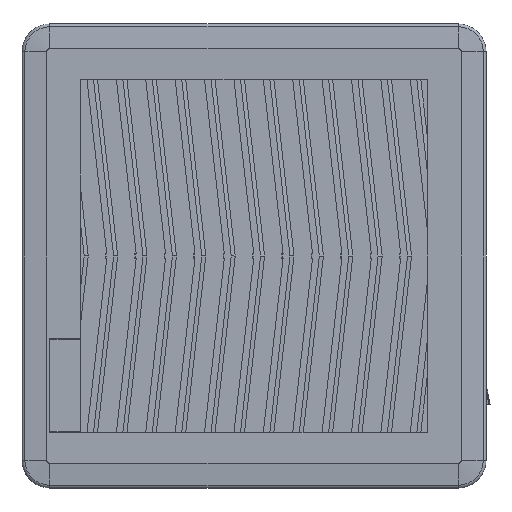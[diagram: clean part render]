
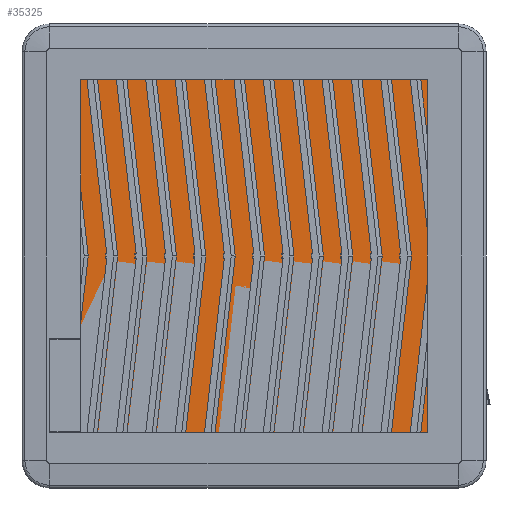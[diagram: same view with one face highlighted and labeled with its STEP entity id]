
A CAD part, front view. The second image highlights one B-rep face of the part: STEP entity #35325.
In plain terms, the highlighted planar face has unit normal (0, -1, 0) as drawn and (0, 0, 1) by its records, which use the part's own axes.
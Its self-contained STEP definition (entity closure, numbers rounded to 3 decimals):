
#229 = CARTESIAN_POINT ( 'NONE',  ( 66.953, -72.751, 27.2 ) ) ;
#672 = CARTESIAN_POINT ( 'NONE',  ( -73.651, 69.853, 27.2 ) ) ;
#1236 = CARTESIAN_POINT ( 'NONE',  ( 71.053, 72.751, 27.2 ) ) ;
#1323 = EDGE_CURVE ( 'NONE', #22929, #35946, #29842, .T. ) ;
#1491 = CARTESIAN_POINT ( 'NONE',  ( -73.651, -65.753, 27.2 ) ) ;
#2923 = EDGE_CURVE ( 'NONE', #29340, #18678, #36328, .T. ) ;
#2953 = CARTESIAN_POINT ( 'NONE',  ( -66.653, 72.751, 27.2 ) ) ;
#3494 = CARTESIAN_POINT ( 'NONE',  ( -66.653, 72.751, 27.2 ) ) ;
#4005 = VERTEX_POINT ( 'NONE', #32005 ) ;
#4417 = CARTESIAN_POINT ( 'NONE',  ( 73.951, 69.853, 27.2 ) ) ;
#4486 = CARTESIAN_POINT ( 'NONE',  ( -73.651, -69.853, 27.2 ) ) ;
#5853 = VERTEX_POINT ( 'NONE', #22024 ) ;
#6611 = DIRECTION ( 'NONE',  ( 0., 1., 0. ) ) ;
#7611 = EDGE_CURVE ( 'NONE', #18678, #22929, #10460, .T. ) ;
#8168 = EDGE_CURVE ( 'NONE', #5853, #10823, #27446, .T. ) ;
#8531 = CARTESIAN_POINT ( 'NONE',  ( 0., 0., 27.2 ) ) ;
#9400 = LINE ( 'NONE', #33226, #21226 ) ;
#9447 = LINE ( 'NONE', #34969, #12328 ) ;
#9554 = CARTESIAN_POINT ( 'NONE',  ( -70.753, -72.751, 27.2 ) ) ;
#10460 = LINE ( 'NONE', #25115, #16282 ) ;
#10570 = EDGE_LOOP ( 'NONE', ( #36429, #11528, #32979, #19005, #24774, #19125, #12458, #26954 ) ) ;
#10823 = VERTEX_POINT ( 'NONE', #15357 ) ;
#11124 = EDGE_CURVE ( 'NONE', #35946, #5853, #9447, .T. ) ;
#11528 = ORIENTED_EDGE ( 'NONE', *, *, #1323, .T. ) ;
#11657 = CARTESIAN_POINT ( 'NONE',  ( 71.053, -72.751, 27.2 ) ) ;
#11815 = CARTESIAN_POINT ( 'NONE',  ( -73.651, 65.753, 27.2 ) ) ;
#12216 = CARTESIAN_POINT ( 'NONE',  ( 73.951, 72.9, 27.2 ) ) ;
#12328 = VECTOR ( 'NONE', #29508, 1000. ) ;
#12458 = ORIENTED_EDGE ( 'NONE', *, *, #34252, .T. ) ;
#13299 = DIRECTION ( 'NONE',  ( -1., 0., 0. ) ) ;
#14940 = CARTESIAN_POINT ( 'NONE',  ( -70.753, 72.751, 27.2 ) ) ;
#15357 = CARTESIAN_POINT ( 'NONE',  ( -66.653, -72.751, 27.2 ) ) ;
#15682 = CARTESIAN_POINT ( 'NONE',  ( 73.951, 65.753, 27.2 ) ) ;
#15866 = CARTESIAN_POINT ( 'NONE',  ( 66.953, 72.751, 27.2 ) ) ;
#16282 = VECTOR ( 'NONE', #13299, 1000. ) ;
#18678 = VERTEX_POINT ( 'NONE', #35986 ) ;
#19005 = ORIENTED_EDGE ( 'NONE', *, *, #8168, .T. ) ;
#19125 = ORIENTED_EDGE ( 'NONE', *, *, #26832, .T. ) ;
#20688 = LINE ( 'NONE', #12216, #30187 ) ;
#21205 = CARTESIAN_POINT ( 'NONE',  ( -66.653, -72.751, 27.2 ) ) ;
#21226 = VECTOR ( 'NONE', #27602, 1000. ) ;
#22024 = CARTESIAN_POINT ( 'NONE',  ( -73.651, -65.753, 27.2 ) ) ;
#22278 = CARTESIAN_POINT ( 'NONE',  ( 73.951, -65.753, 27.2 ) ) ;
#22929 = VERTEX_POINT ( 'NONE', #2953 ) ;
#22941 =( BOUNDED_CURVE ( )  B_SPLINE_CURVE ( 3, ( #229, #11657, #34389, #31575 ),
 .UNSPECIFIED., .F., .T. ) 
 B_SPLINE_CURVE_WITH_KNOTS ( ( 4, 4 ),
 ( 5.498, 7.068 ),
 .UNSPECIFIED. ) 
 CURVE ( )  GEOMETRIC_REPRESENTATION_ITEM ( )  RATIONAL_B_SPLINE_CURVE ( ( 1., 0.805, 0.805, 1. ) ) 
 REPRESENTATION_ITEM ( '' )  );
#23186 = DIRECTION ( 'NONE',  ( 0., 0., -1. ) ) ;
#23643 = EDGE_CURVE ( 'NONE', #10823, #4005, #9400, .T. ) ;
#24774 = ORIENTED_EDGE ( 'NONE', *, *, #23643, .T. ) ;
#25115 = CARTESIAN_POINT ( 'NONE',  ( -73.8, 72.751, 27.2 ) ) ;
#26123 = AXIS2_PLACEMENT_3D ( 'NONE', #8531, #23186, #31630 ) ;
#26750 = CARTESIAN_POINT ( 'NONE',  ( -73.651, 65.753, 27.2 ) ) ;
#26832 = EDGE_CURVE ( 'NONE', #4005, #35117, #22941, .T. ) ;
#26954 = ORIENTED_EDGE ( 'NONE', *, *, #2923, .T. ) ;
#27446 =( BOUNDED_CURVE ( )  B_SPLINE_CURVE ( 3, ( #1491, #4486, #9554, #21205 ),
 .UNSPECIFIED., .F., .F. ) 
 B_SPLINE_CURVE_WITH_KNOTS ( ( 4, 4 ),
 ( 5.498, 7.068 ),
 .UNSPECIFIED. ) 
 CURVE ( )  GEOMETRIC_REPRESENTATION_ITEM ( )  RATIONAL_B_SPLINE_CURVE ( ( 1., 0.805, 0.805, 1. ) ) 
 REPRESENTATION_ITEM ( '' )  );
#27602 = DIRECTION ( 'NONE',  ( 1., 0., 0. ) ) ;
#28425 = PLANE ( 'NONE',  #26123 ) ;
#29340 = VERTEX_POINT ( 'NONE', #34403 ) ;
#29508 = DIRECTION ( 'NONE',  ( 0., -1., 0. ) ) ;
#29842 =( BOUNDED_CURVE ( )  B_SPLINE_CURVE ( 3, ( #3494, #14940, #672, #26750 ),
 .UNSPECIFIED., .F., .F. ) 
 B_SPLINE_CURVE_WITH_KNOTS ( ( 4, 4 ),
 ( 5.498, 7.068 ),
 .UNSPECIFIED. ) 
 CURVE ( )  GEOMETRIC_REPRESENTATION_ITEM ( )  RATIONAL_B_SPLINE_CURVE ( ( 1., 0.805, 0.805, 1. ) ) 
 REPRESENTATION_ITEM ( '' )  );
#30187 = VECTOR ( 'NONE', #6611, 1000. ) ;
#31575 = CARTESIAN_POINT ( 'NONE',  ( 73.951, -65.753, 27.2 ) ) ;
#31630 = DIRECTION ( 'NONE',  ( -1., 0., 0. ) ) ;
#32005 = CARTESIAN_POINT ( 'NONE',  ( 66.953, -72.751, 27.2 ) ) ;
#32979 = ORIENTED_EDGE ( 'NONE', *, *, #11124, .T. ) ;
#33226 = CARTESIAN_POINT ( 'NONE',  ( 74.1, -72.751, 27.2 ) ) ;
#34252 = EDGE_CURVE ( 'NONE', #35117, #29340, #20688, .T. ) ;
#34389 = CARTESIAN_POINT ( 'NONE',  ( 73.951, -69.853, 27.2 ) ) ;
#34403 = CARTESIAN_POINT ( 'NONE',  ( 73.951, 65.753, 27.2 ) ) ;
#34969 = CARTESIAN_POINT ( 'NONE',  ( -73.651, -72.9, 27.2 ) ) ;
#35117 = VERTEX_POINT ( 'NONE', #22278 ) ;
#35325 = ADVANCED_FACE ( 'NONE', ( #37083 ), #28425, .F. ) ;
#35946 = VERTEX_POINT ( 'NONE', #11815 ) ;
#35986 = CARTESIAN_POINT ( 'NONE',  ( 66.953, 72.751, 27.2 ) ) ;
#36328 =( BOUNDED_CURVE ( )  B_SPLINE_CURVE ( 3, ( #15682, #4417, #1236, #15866 ),
 .UNSPECIFIED., .F., .F. ) 
 B_SPLINE_CURVE_WITH_KNOTS ( ( 4, 4 ),
 ( 5.498, 7.068 ),
 .UNSPECIFIED. ) 
 CURVE ( )  GEOMETRIC_REPRESENTATION_ITEM ( )  RATIONAL_B_SPLINE_CURVE ( ( 1., 0.805, 0.805, 1. ) ) 
 REPRESENTATION_ITEM ( '' )  );
#36429 = ORIENTED_EDGE ( 'NONE', *, *, #7611, .T. ) ;
#37083 = FACE_OUTER_BOUND ( 'NONE', #10570, .T. ) ;
